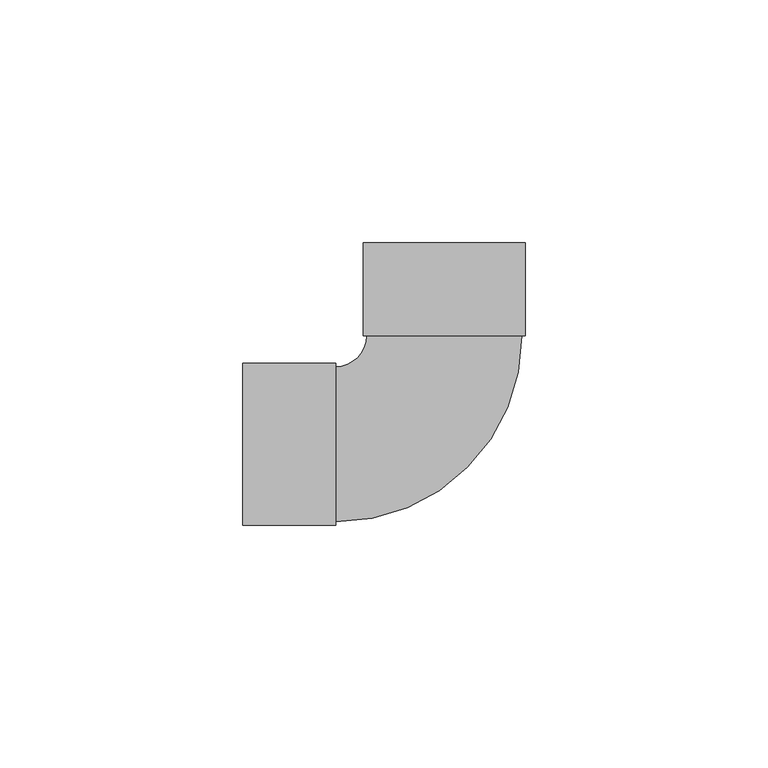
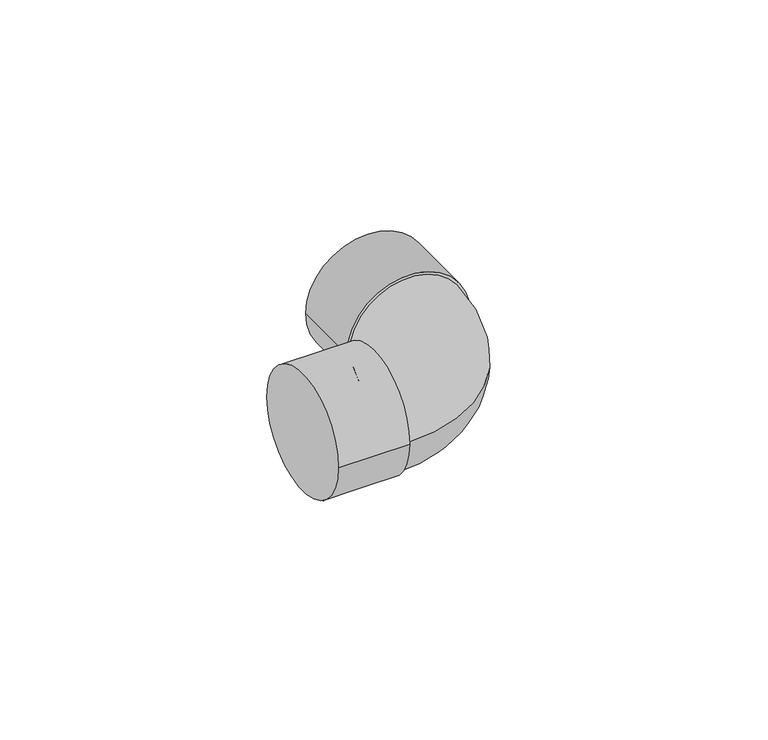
"""IFC4 building model written with IfcOpenShell, lengths in millimetres: pipe fitting geometry, Cotovelo - Soldado - CU : Padrão."""

from ifc_helpers import new_model, si_unit, point, frame, origin, place, context, project, spatial, circle_curve, ellipse_curve, trimmed, source, transform, mapped, element, save
from ifc_brep_helpers import plane_surface, cylinder_surface, revolved_surface, advanced_brep


def pipe_fitting_738abc8c(model_context):
    return source(origin(), model_context, "Body", "AdvancedBrep", [
        advanced_brep(
        [(-16.0, 22.32, 0.0), (-22.32, 16.0, 0.0), (-22.32, -16.0, 0.0), (16.0, 22.32, 0.0), (-41.56, -16.72, 0.0), (-41.56, 16.72, 0.0), (-22.32, -16.72, 0.0), (-22.32, 16.72, 0.0), (-16.72, 41.56, 0.0), (16.72, 41.56, 0.0), (-16.72, 22.32, 0.0), (16.72, 22.32, 0.0)],
        [
            (0, 1, circle_curve(frame((-22.32, 22.32, 0.0), z_axis=(0.0, 0.0, -1.0), x_axis=(0.0, -1.0, 0.0)), 6.32)),
            (1, 2, circle_curve(frame((-22.32, 0.0, 0.0), z_axis=(1.0, 0.0, 0.0), x_axis=(0.0, 1.0, 0.0)), 16.0)),
            (2, 3, circle_curve(frame((-22.32, 22.32, 0.0), z_axis=(0.0, 0.0, 1.0), x_axis=(0.0, -1.0, 0.0)), 38.32)),
            (3, 0, circle_curve(frame((0.0, 22.32, 0.0), z_axis=(0.0, -1.0, 0.0), x_axis=(-1.0, 0.0, 0.0)), 16.0)),
            (0, 3, circle_curve(frame((0.0, 22.32, 0.0), z_axis=(0.0, -1.0, 0.0), x_axis=(-1.0, 0.0, 0.0)), 16.0)),
            (2, 1, circle_curve(frame((-22.32, 0.0, 0.0), z_axis=(1.0, 0.0, 0.0), x_axis=(0.0, 1.0, 0.0)), 16.0)),
            (4, 5, circle_curve(frame((-41.56, 0.0, 0.0), z_axis=(-1.0, 0.0, 0.0), x_axis=(0.0, 1.0, 0.0)), 16.72)),
            (5, 4, circle_curve(frame((-41.56, 0.0, 0.0), z_axis=(-1.0, 0.0, 0.0), x_axis=(0.0, 1.0, 0.0)), 16.72)),
            (6, 7, circle_curve(frame((-22.32, 0.0, 0.0), z_axis=(1.0, 0.0, 0.0), x_axis=(0.0, 1.0, 0.0)), 16.72)),
            (7, 6, circle_curve(frame((-22.32, 0.0, 0.0), z_axis=(1.0, 0.0, 0.0), x_axis=(0.0, 1.0, 0.0)), 16.72)),
            (4, 6),
            (7, 5),
            (8, 9, circle_curve(frame((0.0, 41.56, 0.0), z_axis=(0.0, 1.0, 0.0), x_axis=(1.0, 0.0, 0.0)), 16.72)),
            (9, 8, circle_curve(frame((0.0, 41.56, 0.0), z_axis=(0.0, 1.0, 0.0), x_axis=(1.0, 0.0, 0.0)), 16.72)),
            (10, 11, circle_curve(frame((0.0, 22.32, 0.0), z_axis=(0.0, -1.0, 0.0), x_axis=(1.0, 0.0, 0.0)), 16.72)),
            (11, 10, circle_curve(frame((0.0, 22.32, 0.0), z_axis=(0.0, -1.0, 0.0), x_axis=(1.0, 0.0, 0.0)), 16.72)),
            (8, 10),
            (11, 9),
        ],
        [
            revolved_surface(trimmed(ellipse_curve(frame((-22.32, 0.0, 0.0), z_axis=(-1.0, 0.0, 0.0), x_axis=(0.0, 1.0, 0.0)), 16.0, 16.0), [point((-22.32, -16.0, 0.0))], [point((-22.32, 16.0, 0.0))], True, "CARTESIAN"), (-22.32, 22.32, 0.0), (0.0, 0.0, 1.0)),
            revolved_surface(trimmed(ellipse_curve(frame((-22.32, 0.0, 0.0), z_axis=(-1.0, 0.0, 0.0), x_axis=(0.0, 1.0, 0.0)), 16.0, 16.0), [point((-22.32, 16.0, 0.0))], [point((-22.32, -16.0, 0.0))], True, "CARTESIAN"), (-22.32, 22.32, 0.0), (0.0, 0.0, 1.0)),
            plane_surface(frame((-41.56, 0.0, 0.0), z_axis=(-1.0, 0.0, 0.0), x_axis=(0.0, 0.0, 1.0))),
            plane_surface(frame((-22.32, 0.0, 0.0), z_axis=(1.0, 0.0, 0.0), x_axis=(0.0, 0.0, 1.0))),
            cylinder_surface(frame((-41.56, 0.0, 0.0), z_axis=(-1.0, 0.0, 0.0), x_axis=(0.0, 1.0, 0.0)), 16.72),
            plane_surface(frame((0.0, 41.56, 0.0), z_axis=(0.0, 1.0, 0.0), x_axis=(0.0, 0.0, 1.0))),
            plane_surface(frame((0.0, 22.32, 0.0), z_axis=(0.0, -1.0, 0.0), x_axis=(0.0, 0.0, 1.0))),
            cylinder_surface(frame((0.0, 41.56, 0.0), z_axis=(0.0, 1.0, 0.0), x_axis=(1.0, 0.0, 0.0)), 16.72),
        ],
        [
            (0, [[1, 2, 3, 4]]),
            (1, [[-1, 5, -3, 6]]),
            (2, [[7, 8]]),
            (3, [[9, 10], [-2, -6]]),
            (4, [[-7, 11, -10, 12]]),
            (4, [[-8, -12, -9, -11]]),
            (5, [[13, 14]]),
            (6, [[15, 16], [-4, -5]]),
            (7, [[-13, 17, -16, 18]]),
            (7, [[-14, -18, -15, -17]]),
        ],
    ),
    ])


if __name__ == "__main__":
    model = new_model("IFC4")
    model_context = context("Model", 3, world=origin())
    ifc_project = project(units=[si_unit("LENGTHUNIT", "METRE", prefix="MILLI")], contexts=[model_context])
    site = spatial("IfcSite", under=ifc_project)
    building = spatial("IfcBuilding", under=site)
    placement = place(None, origin())
    pipe_fitting_shape = pipe_fitting_738abc8c(model_context)
    element("IfcPipeFitting", 1, ObjectType="Cotovelo - Soldado - CU : Padrão", at=placement, inside=building, context=model_context, shape_type="MappedRepresentation", body=[
        mapped(pipe_fitting_shape, transform((0.0, 0.0, 0.0), x_axis=(1.0, 0.0, 0.0), y_axis=(0.0, 1.0, 0.0), z_axis=(0.0, 0.0, 1.0))),
    ])
    save(model, "model.ifc")
